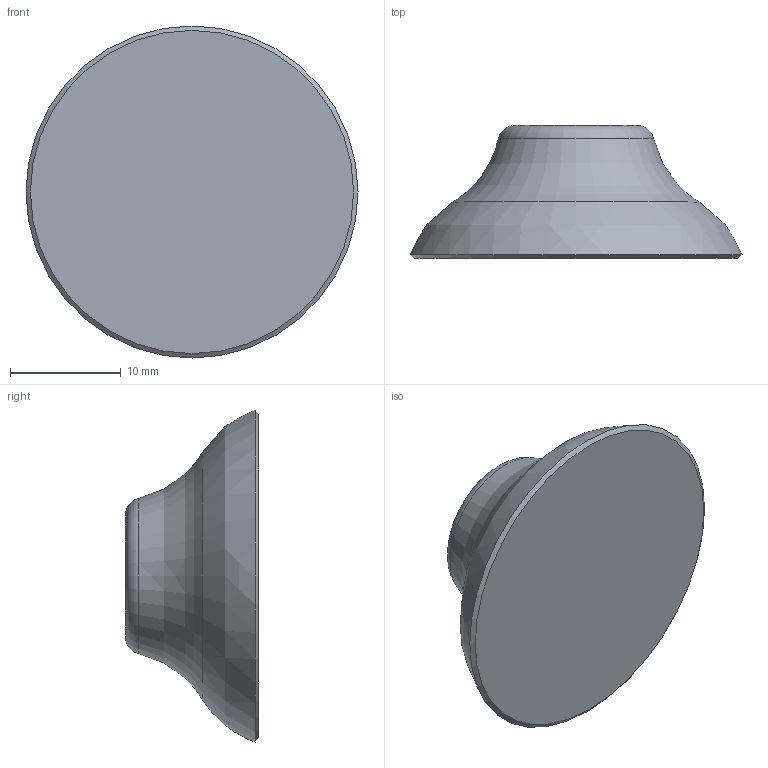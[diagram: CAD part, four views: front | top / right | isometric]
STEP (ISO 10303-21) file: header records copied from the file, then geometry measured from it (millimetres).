
FILE_DESCRIPTION(/* description */ (''),/* implementation_level */ '2;1');
FILE_NAME(/* name */ 'W:\Technik\Konstruktion\CAD-Daten\Vakuumsauger\102_\102.030.053\102.030.053_Kd neu.stp',/* time_stamp */ '2017-06-22T14:50:53+02:00',/* author */ ('DFloßmann'),/* organization */ (''),/* preprocessor_version */ 'ST-DEVELOPER v16.5',/* originating_system */ 'Autodesk Inventor 2017',/* authorisation */ '');
FILE_SCHEMA (('CONFIG_CONTROL_DESIGN','AUTOMOTIVE_DESIGN { 1 0 10303 214 3 1 1 }'));
Length unit declared in the file: millimetre
Products named in the file (1): 102.030.053_Kd neu
Bounding box: 30 x 12 x 30 mm (x, y, z)
Volume: 3987 mm3; surface area: 2182.9 mm2
Topology: 1 solids, 1 shells, 10 faces, 17 edges, 11 vertices
Faces by surface type: plane 4, torus 2, cylinder 2, cone 1, bspline 1
Full cylindrical faces by diameter (mm): 6 x1, 11 x1
Entity records: 270 total; most frequent: CARTESIAN_POINT 62, DIRECTION 42, ORIENTED_EDGE 24, AXIS2_PLACEMENT_3D 21, EDGE_LOOP 17, EDGE_CURVE 12, CIRCLE 11, VERTEX_POINT 11
